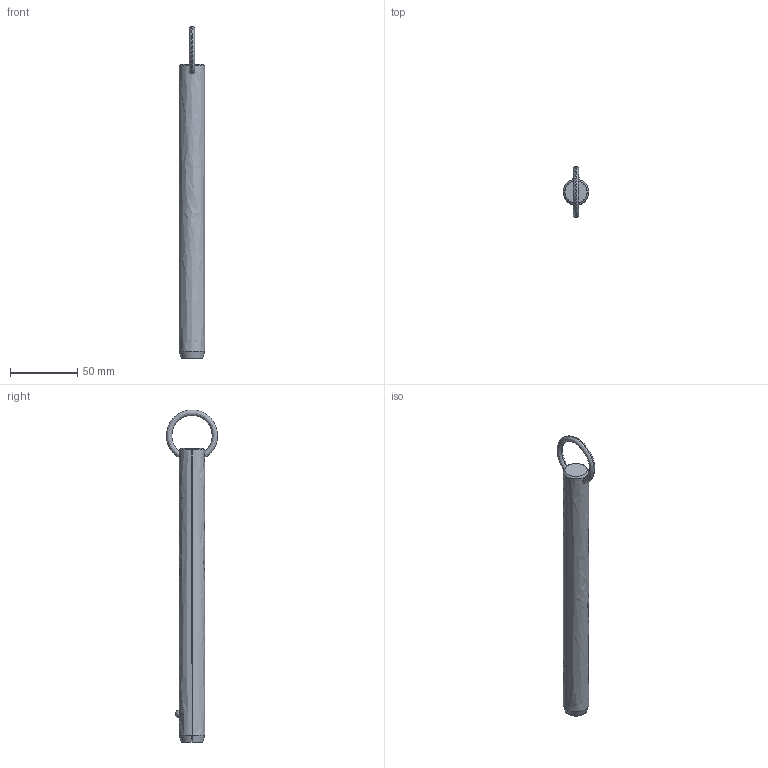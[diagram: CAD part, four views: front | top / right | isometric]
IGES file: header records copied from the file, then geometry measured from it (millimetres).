
Start section: SolidWorks IGES file using analytic representation for surfaces
Global section: file name: C:\Users\liam_\OneDrive\Documents\WORK\Work for WixRoyd\Job Files\J-00019 - Matt Davis CAD Checking\04. CAD Drawings\automotion20190605\P1250.2_v2\P1250.2_v2_20190729_IGES\P1250.075-730.igs; native system: SolidWorks 2017; preprocessor: SolidWorks 2017; author: liam_; date: 190730.000159; units: millimetre
Bounding box: 19 x 38.05 x 247.2 mm (x, y, z)
Surface area: 14581.1 mm2 (no closed solid volume)
Topology: 0 solids, 0 shells, 12 faces, 294 edges, 292 vertices
Faces by surface type: revolution 8, bspline 4
